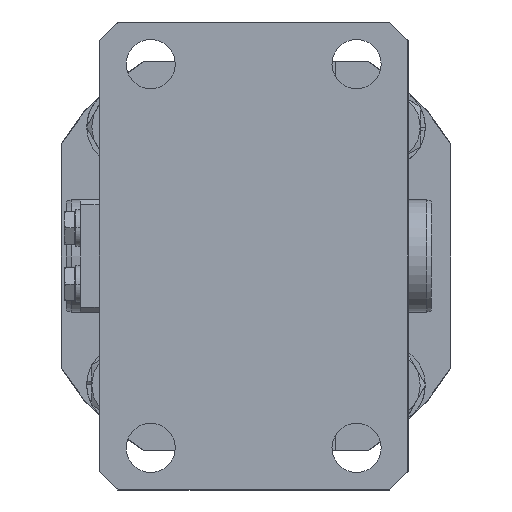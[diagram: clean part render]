
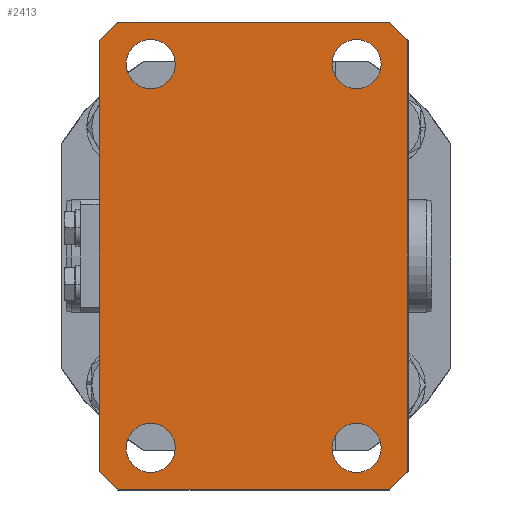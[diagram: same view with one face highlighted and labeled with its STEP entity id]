
A CAD part, left-side view. The second image highlights one B-rep face of the part: STEP entity #2413.
In plain terms, the highlighted planar face has unit normal (-1, 0, 0).
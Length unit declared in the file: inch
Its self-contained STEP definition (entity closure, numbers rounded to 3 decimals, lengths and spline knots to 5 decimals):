
#549 = ORIENTED_EDGE ( 'NONE', *, *, #16260, .T. ) ;
#1060 = PLANE ( 'NONE',  #15134 ) ;
#1330 = CIRCLE ( 'NONE', #27911, 0.3281 ) ;
#1446 = DIRECTION ( 'NONE',  ( 1., 0., 0. ) ) ;
#2069 = ORIENTED_EDGE ( 'NONE', *, *, #10987, .T. ) ;
#2241 = EDGE_CURVE ( 'NONE', #29217, #5372, #3251, .T. ) ;
#2387 = ORIENTED_EDGE ( 'NONE', *, *, #38204, .T. ) ;
#2413 = ADVANCED_FACE ( 'NONE', ( #11768, #37346, #4655, #19115, #33735 ), #1060, .T. ) ;
#2715 = CARTESIAN_POINT ( 'NONE',  ( -14.625, -2.43322, 2.46521 ) ) ;
#2882 = CARTESIAN_POINT ( 'NONE',  ( -14.625, -1.343, 2.562 ) ) ;
#2941 = LINE ( 'NONE', #28367, #34006 ) ;
#3251 = LINE ( 'NONE', #17743, #35242 ) ;
#3364 = VECTOR ( 'NONE', #20960, 39.37008 ) ;
#3441 = CARTESIAN_POINT ( 'NONE',  ( -14.625, 1.407, -2.8901 ) ) ;
#3685 = EDGE_CURVE ( 'NONE', #31508, #26619, #37146, .T. ) ;
#4367 = VERTEX_POINT ( 'NONE', #31661 ) ;
#4454 = CARTESIAN_POINT ( 'NONE',  ( -14.625, -2.43322, -2.46521 ) ) ;
#4585 = CARTESIAN_POINT ( 'NONE',  ( -14.625, 1.407, -2.2339 ) ) ;
#4655 = FACE_BOUND ( 'NONE', #28064, .T. ) ;
#4794 = EDGE_CURVE ( 'NONE', #8375, #5940, #18495, .T. ) ;
#5056 = DIRECTION ( 'NONE',  ( 1., 0., 0. ) ) ;
#5057 = EDGE_CURVE ( 'NONE', #11339, #13610, #35399, .T. ) ;
#5106 = CARTESIAN_POINT ( 'NONE',  ( -14.625, 0.032, 0. ) ) ;
#5260 = ORIENTED_EDGE ( 'NONE', *, *, #7139, .T. ) ;
#5372 = VERTEX_POINT ( 'NONE', #30287 ) ;
#5796 = VERTEX_POINT ( 'NONE', #41445 ) ;
#5940 = VERTEX_POINT ( 'NONE', #3441 ) ;
#6065 = ORIENTED_EDGE ( 'NONE', *, *, #24754, .T. ) ;
#6495 = CARTESIAN_POINT ( 'NONE',  ( -14.625, -2.0255, 2.875 ) ) ;
#6561 = DIRECTION ( 'NONE',  ( 1., 0., 0. ) ) ;
#7120 = DIRECTION ( 'NONE',  ( 0., 0., -1. ) ) ;
#7139 = EDGE_CURVE ( 'NONE', #32965, #29217, #14411, .T. ) ;
#7649 = CARTESIAN_POINT ( 'NONE',  ( -14.625, 1.84242, 3.12 ) ) ;
#7744 = DIRECTION ( 'NONE',  ( 1., 0., 0. ) ) ;
#7983 = CARTESIAN_POINT ( 'NONE',  ( -14.625, -1.77843, 3.12 ) ) ;
#8375 = VERTEX_POINT ( 'NONE', #4585 ) ;
#9165 = LINE ( 'NONE', #23632, #21224 ) ;
#9619 = CARTESIAN_POINT ( 'NONE',  ( -14.625, -1.343, -2.562 ) ) ;
#9630 = VERTEX_POINT ( 'NONE', #30985 ) ;
#9777 = CARTESIAN_POINT ( 'NONE',  ( -14.625, 2.0895, 2.87293 ) ) ;
#10987 = EDGE_CURVE ( 'NONE', #39677, #30046, #43452, .T. ) ;
#11273 = LINE ( 'NONE', #25764, #15428 ) ;
#11339 = VERTEX_POINT ( 'NONE', #30454 ) ;
#11768 = FACE_OUTER_BOUND ( 'NONE', #14424, .T. ) ;
#12087 = AXIS2_PLACEMENT_3D ( 'NONE', #9619, #24105, #38762 ) ;
#12332 = AXIS2_PLACEMENT_3D ( 'NONE', #15237, #29783, #44453 ) ;
#13610 = VERTEX_POINT ( 'NONE', #7983 ) ;
#14411 = LINE ( 'NONE', #30061, #17031 ) ;
#14424 = EDGE_LOOP ( 'NONE', ( #42383, #19982, #18174, #5260, #18435, #31339, #6065, #45263 ) ) ;
#14607 = ORIENTED_EDGE ( 'NONE', *, *, #18588, .T. ) ;
#15134 = AXIS2_PLACEMENT_3D ( 'NONE', #5106, #19592, #34224 ) ;
#15237 = CARTESIAN_POINT ( 'NONE',  ( -14.625, -1.343, -2.562 ) ) ;
#15401 = CIRCLE ( 'NONE', #42172, 0.3281 ) ;
#15428 = VECTOR ( 'NONE', #40459, 39.37008 ) ;
#15737 = AXIS2_PLACEMENT_3D ( 'NONE', #34142, #1446, #15986 ) ;
#15986 = DIRECTION ( 'NONE',  ( 0., 0., -1. ) ) ;
#16260 = EDGE_CURVE ( 'NONE', #27177, #31568, #32663, .T. ) ;
#17031 = VECTOR ( 'NONE', #44729, 39.37008 ) ;
#17225 = DIRECTION ( 'NONE',  ( 0., 0.707, 0.707 ) ) ;
#17383 = DIRECTION ( 'NONE',  ( 1., 0., 0. ) ) ;
#17743 = CARTESIAN_POINT ( 'NONE',  ( -14.625, 2.0895, -2.875 ) ) ;
#18174 = ORIENTED_EDGE ( 'NONE', *, *, #38897, .T. ) ;
#18412 = CIRCLE ( 'NONE', #45227, 0.3281 ) ;
#18435 = ORIENTED_EDGE ( 'NONE', *, *, #2241, .T. ) ;
#18476 = EDGE_CURVE ( 'NONE', #9630, #4367, #18412, .T. ) ;
#18495 = CIRCLE ( 'NONE', #45324, 0.3281 ) ;
#18588 = EDGE_CURVE ( 'NONE', #4367, #9630, #15401, .T. ) ;
#18927 = DIRECTION ( 'NONE',  ( 0., -0.707, 0.707 ) ) ;
#19115 = FACE_BOUND ( 'NONE', #45151, .T. ) ;
#19536 = DIRECTION ( 'NONE',  ( 0., 0., -1. ) ) ;
#19592 = DIRECTION ( 'NONE',  ( -1., 0., 0. ) ) ;
#19982 = ORIENTED_EDGE ( 'NONE', *, *, #5057, .T. ) ;
#20960 = DIRECTION ( 'NONE',  ( 0., 0., 1. ) ) ;
#21028 = DIRECTION ( 'NONE',  ( 0., 0., -1. ) ) ;
#21224 = VECTOR ( 'NONE', #38310, 39.37008 ) ;
#21798 = ORIENTED_EDGE ( 'NONE', *, *, #18476, .T. ) ;
#22215 = DIRECTION ( 'NONE',  ( 0., 0., -1. ) ) ;
#22743 = AXIS2_PLACEMENT_3D ( 'NONE', #39277, #6561, #21028 ) ;
#23081 = CARTESIAN_POINT ( 'NONE',  ( -14.625, -2.0255, -2.87293 ) ) ;
#23632 = CARTESIAN_POINT ( 'NONE',  ( -14.625, -1.7805, -3.12 ) ) ;
#24105 = DIRECTION ( 'NONE',  ( 1., 0., 0. ) ) ;
#24594 = ORIENTED_EDGE ( 'NONE', *, *, #4794, .T. ) ;
#24754 = EDGE_CURVE ( 'NONE', #5796, #31508, #9165, .T. ) ;
#25169 = CARTESIAN_POINT ( 'NONE',  ( -14.625, 1.407, 2.562 ) ) ;
#25764 = CARTESIAN_POINT ( 'NONE',  ( -14.625, 1.8445, 3.12 ) ) ;
#26177 = EDGE_LOOP ( 'NONE', ( #2387, #549 ) ) ;
#26353 = CARTESIAN_POINT ( 'NONE',  ( -14.625, -1.343, -2.2339 ) ) ;
#26619 = VERTEX_POINT ( 'NONE', #23081 ) ;
#26642 = EDGE_CURVE ( 'NONE', #5940, #8375, #36362, .T. ) ;
#27177 = VERTEX_POINT ( 'NONE', #26353 ) ;
#27911 = AXIS2_PLACEMENT_3D ( 'NONE', #2882, #17383, #31959 ) ;
#28064 = EDGE_LOOP ( 'NONE', ( #47325, #2069 ) ) ;
#28367 = CARTESIAN_POINT ( 'NONE',  ( -14.625, 2.49721, -2.46521 ) ) ;
#28595 = CARTESIAN_POINT ( 'NONE',  ( -14.625, -1.343, -2.8901 ) ) ;
#29217 = VERTEX_POINT ( 'NONE', #9777 ) ;
#29783 = DIRECTION ( 'NONE',  ( 1., 0., 0. ) ) ;
#30046 = VERTEX_POINT ( 'NONE', #34300 ) ;
#30061 = CARTESIAN_POINT ( 'NONE',  ( -14.625, 2.49721, 2.46521 ) ) ;
#30287 = CARTESIAN_POINT ( 'NONE',  ( -14.625, 2.0895, -2.87293 ) ) ;
#30454 = CARTESIAN_POINT ( 'NONE',  ( -14.625, -2.0255, 2.87293 ) ) ;
#30985 = CARTESIAN_POINT ( 'NONE',  ( -14.625, 1.407, 2.8901 ) ) ;
#31339 = ORIENTED_EDGE ( 'NONE', *, *, #34126, .T. ) ;
#31508 = VERTEX_POINT ( 'NONE', #38497 ) ;
#31568 = VERTEX_POINT ( 'NONE', #28595 ) ;
#31661 = CARTESIAN_POINT ( 'NONE',  ( -14.625, 1.407, 2.2339 ) ) ;
#31959 = DIRECTION ( 'NONE',  ( 0., 0., -1. ) ) ;
#32321 = DIRECTION ( 'NONE',  ( 0., 0., -1. ) ) ;
#32663 = CIRCLE ( 'NONE', #12087, 0.3281 ) ;
#32918 = CIRCLE ( 'NONE', #12332, 0.3281 ) ;
#32965 = VERTEX_POINT ( 'NONE', #7649 ) ;
#33735 = FACE_BOUND ( 'NONE', #26177, .T. ) ;
#34006 = VECTOR ( 'NONE', #43076, 39.37008 ) ;
#34126 = EDGE_CURVE ( 'NONE', #5372, #5796, #2941, .T. ) ;
#34142 = CARTESIAN_POINT ( 'NONE',  ( -14.625, 1.407, -2.562 ) ) ;
#34224 = DIRECTION ( 'NONE',  ( 0., 0., 1. ) ) ;
#34300 = CARTESIAN_POINT ( 'NONE',  ( -14.625, -1.343, 2.2339 ) ) ;
#34783 = ORIENTED_EDGE ( 'NONE', *, *, #26642, .T. ) ;
#34893 = EDGE_CURVE ( 'NONE', #30046, #39677, #1330, .T. ) ;
#35242 = VECTOR ( 'NONE', #32321, 39.37008 ) ;
#35399 = LINE ( 'NONE', #2715, #37051 ) ;
#36362 = CIRCLE ( 'NONE', #15737, 0.3281 ) ;
#37051 = VECTOR ( 'NONE', #17225, 39.37008 ) ;
#37146 = LINE ( 'NONE', #4454, #42556 ) ;
#37346 = FACE_BOUND ( 'NONE', #45529, .T. ) ;
#37780 = CARTESIAN_POINT ( 'NONE',  ( -14.625, 1.407, 2.562 ) ) ;
#38204 = EDGE_CURVE ( 'NONE', #31568, #27177, #32918, .T. ) ;
#38310 = DIRECTION ( 'NONE',  ( 0., -1., 0. ) ) ;
#38497 = CARTESIAN_POINT ( 'NONE',  ( -14.625, -1.77843, -3.12 ) ) ;
#38762 = DIRECTION ( 'NONE',  ( 0., 0., -1. ) ) ;
#38897 = EDGE_CURVE ( 'NONE', #13610, #32965, #11273, .T. ) ;
#39218 = LINE ( 'NONE', #6495, #3364 ) ;
#39277 = CARTESIAN_POINT ( 'NONE',  ( -14.625, -1.343, 2.562 ) ) ;
#39677 = VERTEX_POINT ( 'NONE', #46542 ) ;
#39837 = DIRECTION ( 'NONE',  ( 1., 0., 0. ) ) ;
#40459 = DIRECTION ( 'NONE',  ( 0., 1., 0. ) ) ;
#40476 = CARTESIAN_POINT ( 'NONE',  ( -14.625, 1.407, -2.562 ) ) ;
#41445 = CARTESIAN_POINT ( 'NONE',  ( -14.625, 1.84242, -3.12 ) ) ;
#42172 = AXIS2_PLACEMENT_3D ( 'NONE', #25169, #39837, #7120 ) ;
#42383 = ORIENTED_EDGE ( 'NONE', *, *, #45573, .T. ) ;
#42556 = VECTOR ( 'NONE', #18927, 39.37008 ) ;
#43076 = DIRECTION ( 'NONE',  ( 0., -0.707, -0.707 ) ) ;
#43452 = CIRCLE ( 'NONE', #22743, 0.3281 ) ;
#44453 = DIRECTION ( 'NONE',  ( 0., 0., -1. ) ) ;
#44729 = DIRECTION ( 'NONE',  ( 0., 0.707, -0.707 ) ) ;
#45151 = EDGE_LOOP ( 'NONE', ( #34783, #24594 ) ) ;
#45227 = AXIS2_PLACEMENT_3D ( 'NONE', #37780, #5056, #19536 ) ;
#45263 = ORIENTED_EDGE ( 'NONE', *, *, #3685, .T. ) ;
#45324 = AXIS2_PLACEMENT_3D ( 'NONE', #40476, #7744, #22215 ) ;
#45529 = EDGE_LOOP ( 'NONE', ( #14607, #21798 ) ) ;
#45573 = EDGE_CURVE ( 'NONE', #26619, #11339, #39218, .T. ) ;
#46542 = CARTESIAN_POINT ( 'NONE',  ( -14.625, -1.343, 2.8901 ) ) ;
#47325 = ORIENTED_EDGE ( 'NONE', *, *, #34893, .T. ) ;
